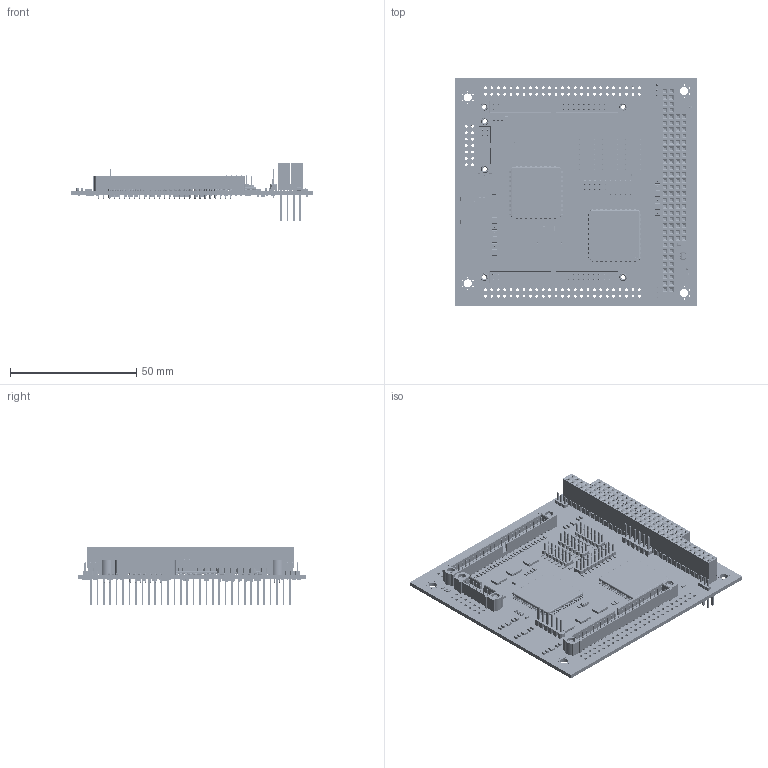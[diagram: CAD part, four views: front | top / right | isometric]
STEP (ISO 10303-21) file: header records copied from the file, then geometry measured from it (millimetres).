
FILE_DESCRIPTION(('Open CASCADE Model'),'2;1');
FILE_NAME('Open CASCADE Shape Model','2019-03-29T15:08:43',('Author'),( 'Open CASCADE'),'Open CASCADE STEP processor 6.8','Open CASCADE 6.8' ,'Unknown');
FILE_SCHEMA(('AUTOMOTIVE_DESIGN { 1 0 10303 214 1 1 1 1 }'));
Length unit declared in the file: millimetre
Products named in the file (252): PCB; Board; U211; 789504752; C233; 789515632; C232; C218; C217; R114; 789518832; R113; R210; R209; R172; 789516528; R112; 789509104; R110; R109; U13; 789510000; U12; U11; U7; 789511152; U6; U5; C62; 789516272; C61; C260; C259; C258; C160; 789517552; C159; C158; C11; C2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
Assembly tree (519 placements, depth 5):
  PCB
    Board
    U211
      789504752
    C233
      789515632
    C232
      789515632
    C218
      789515632
    C217
      789515632
    R114
      789518832
    R113
      789518832
    R210
      789518832
    R209
      789518832
    R172
      789516528
    R112
      789509104
    R110
      789518832
    R109
      789518832
    U13
      789510000
    U12
      789510000
    U11
      789510000
    U7
      789511152
    U6
      789511152
    U5
      789511152
    C62
      789516272
    C61
      789516272
    C260
      789515632
    C259
      789515632
    C258
      789515632
    C160
      789517552
    C159
      789517552
    C158
      789517552
    C11
      789517552
    C2
      789487856
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Bounding box: 95.89 x 90.17 x 23.24 mm (x, y, z)
Volume: 24929.3 mm3; surface area: 45638.8 mm2
Topology: 1522 solids, 1528 shells, 24864 faces, 60157 edges, 37950 vertices
Faces by surface type: plane 18332, cylinder 4730, cone 732, bspline 528, sphere 506, torus 36
Full cylindrical faces by diameter (mm): 0.51 x24, 0.8 x114, 0.91 x6, 0.94 x12, 1.016 x104, 1.11 x114, 2.2 x6, 3.18 x4
Entity records: 435503 total; most frequent: CARTESIAN_POINT 69672, ORIENTED_EDGE 60628, DIRECTION 59074, EDGE_CURVE 30318, LINE 25520, VECTOR 25520, VERTEX_POINT 19570, AXIS2_PLACEMENT_3D 16777
